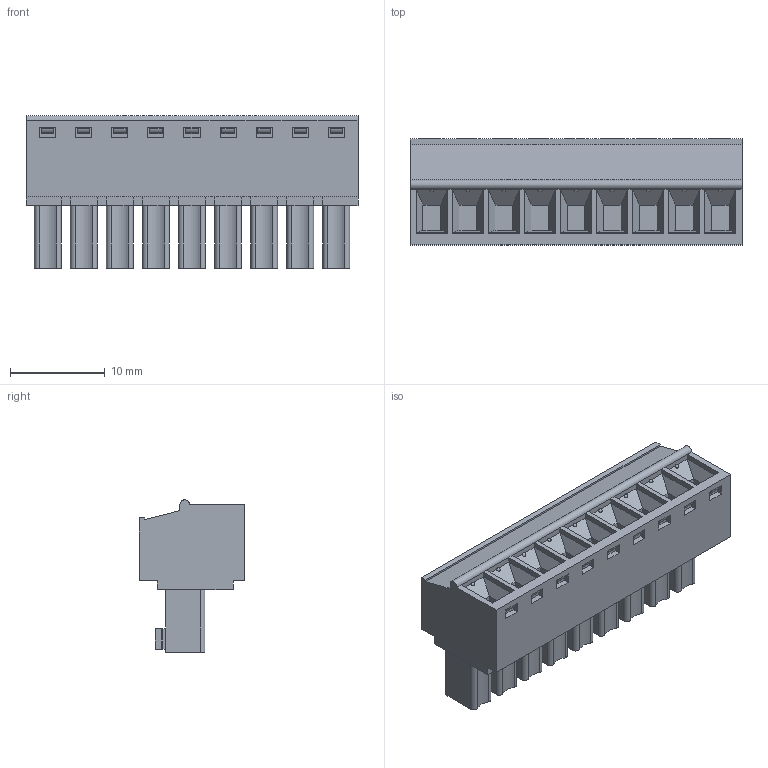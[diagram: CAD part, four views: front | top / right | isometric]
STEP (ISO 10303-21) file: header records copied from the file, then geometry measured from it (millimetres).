
FILE_DESCRIPTION(('FreeCAD Model'),'2;1');
FILE_NAME('Open CASCADE Shape Model','2023-05-24T15:23:15',('Author'),( ''),'Open CASCADE STEP processor 7.6','FreeCAD','Unknown');
FILE_SCHEMA(('AUTOMOTIVE_DESIGN { 1 0 10303 214 1 1 1 1 }'));
Products named in the file (1): BR7F2-09
Bounding box: 35.08 x 11.2 x 16.1 mm (x, y, z)
Volume: 3485.6 mm3; surface area: 3353.2 mm2
Topology: 1 solids, 1 shells, 805 faces, 1952 edges, 1212 vertices
Faces by surface type: plane 480, cylinder 181, cone 90, torus 36, sphere 18
Entity records: 52471 total; most frequent: CARTESIAN_POINT 12861, DIRECTION 7591, LINE 4597, VECTOR 4597, ORIENTED_EDGE 3868, PCURVE 3868, DEFINITIONAL_REPRESENTATION 3868, EDGE_CURVE 1934
